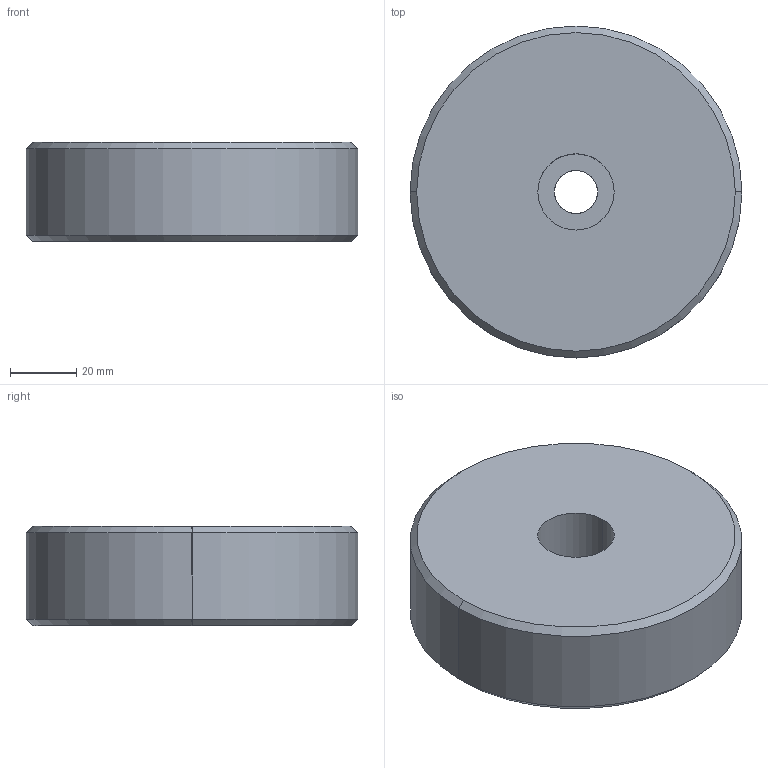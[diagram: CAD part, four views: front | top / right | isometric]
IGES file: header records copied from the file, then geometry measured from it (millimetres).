
Start section: START RECORD GO HERE.
Global section: file name: 703.2.igs; native system: DASSAULT SYSTEMES CATIA V5 R20 - www.3ds.com; preprocessor: CATIA Version 5 Release 20 ; author: Utente; organization: NB04-ASUS; date: 20201025.133538; units: millimetre
Bounding box: 100 x 100 x 30 mm (x, y, z)
Surface area: 25911.4 mm2 (no closed solid volume)
Topology: 0 solids, 0 shells, 13 faces, 52 edges, 52 vertices
Faces by surface type: revolution 10, plane 3
